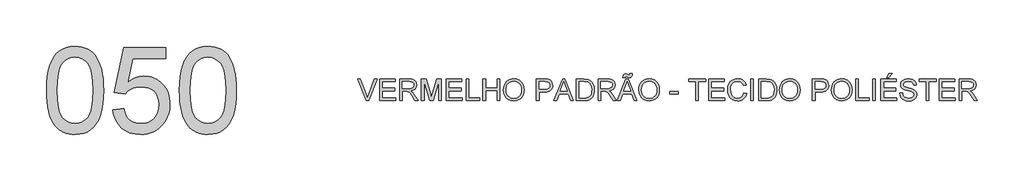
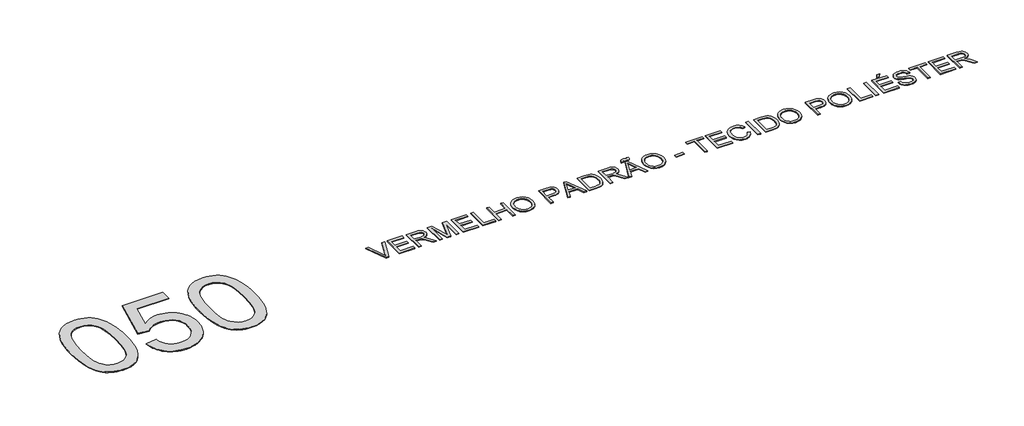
# One storey, part 20 of 67: 2 proxies.
"""IFC4 building model written with IfcOpenShell, lengths in millimetres."""

from ifc_helpers import new_model, si_unit, origin, origin_with_axes, place, context, project, spatial, polyline, outline, extrude, element, save

model = new_model("IFC4")

# Units and contexts
model_context = context("Model", 3, world=origin())
ifc_project = project(units=[si_unit("LENGTHUNIT", "METRE", prefix="MILLI")], contexts=[model_context])

# Site, building, storey
site = spatial("IfcSite", under=ifc_project)
building = spatial("IfcBuilding", under=site)
storey = spatial("IfcBuildingStorey", under=building, Name="Marelli - Linha COLAB - Planta Baixa", Elevation=0.0)

# Proxies
placement = place(None, origin())
element("IfcBuildingElementProxy", 1, Name="1200mm Arial", ObjectType="1200mm Arial", at=placement, inside=storey, context=model_context, shape_type="SweptSolid", body=[
    extrude(outline(polyline([(-25228.2202746, -29887.5405438), (-25225.4519626, -29786.1798571), (-25217.1470265, -29694.5864374), (-25203.3054665, -29612.7602846), (-25183.9272824, -29540.7013988), (-25159.0952477, -29477.8211688), (-25128.8921359, -29423.5309833), (-25093.317947, -29377.8308425), (-25052.3726809, -29340.7207462), (-25005.918382, -29312.0075565), (-24953.8170944, -29291.4981353), (-24896.0688182, -29279.1924825), (-24832.6735534, -29275.0905983), (-24785.032835, -29277.5186194), (-24739.8201378, -29284.8026829), (-24697.0354618, -29296.9427888), (-24656.6788069, -29313.938937), (-24619.7250605, -29335.5060189), (-24587.1491098, -29361.3589261), (-24558.9509549, -29391.4976586), (-24535.1305957, -29425.9222163), (-24514.4924157, -29464.4946435), (-24495.8407986, -29507.0769844), (-24464.4972526, -29604.2714076), (-24452.5226937, -29661.4310726), (-24443.9694373, -29727.6958169), (-24438.8374834, -29803.0656407), (-24437.1268322, -29887.5405438), (-24439.867553, -29988.2574371), (-24448.0897156, -30079.3910043), (-24461.7933199, -30160.9412456), (-24480.978366, -30232.9081609), (-24505.6172626, -30295.8159821), (-24535.6824187, -30350.188941), (-24571.1738342, -30396.0270376), (-24612.0915091, -30433.3302719), (-24658.6009903, -30462.2365997), (-24710.8678248, -30482.8839766), (-24768.8920125, -30495.2724028), (-24832.6735534, -30499.4018782), (-24875.3478648, -30497.6084535), (-24915.6677315, -30492.2281793), (-24953.6331534, -30483.2610557), (-24989.2441305, -30470.7070826), (-25022.5006629, -30454.5662601), (-25053.4027505, -30434.8385881), (-25081.9503933, -30411.5240666), (-25108.1435914, -30384.6226957), (-25136.286564, -30342.0265592), (-25160.6771403, -30293.8478134), (-25181.3153202, -30240.0864583), (-25198.2011038, -30180.742494), (-25211.334491, -30115.8159204), (-25220.7154819, -30045.3067375), (-25226.3440764, -29969.2149453), (-25228.2202746, -29887.5405438)]), holes=[polyline([(-25077.5358094, -29887.2462382), (-25073.1212254, -30018.2398197), (-25059.8774736, -30124.2726077), (-25049.9446597, -30167.9287043), (-25037.8045539, -30205.3446024), (-25023.4571561, -30236.5203023), (-25006.9024663, -30261.4558037), (-24969.5256556, -30299.6327578), (-24928.0285665, -30326.9020107), (-24882.4111991, -30343.2635624), (-24832.6735534, -30348.717413), (-24782.9359076, -30343.2451683), (-24737.3185402, -30326.8284343), (-24695.8214512, -30299.4672109), (-24658.4446405, -30261.1614981), (-24641.8899507, -30236.1662158), (-24627.5425529, -30204.9583263), (-24615.402447, -30167.5378296), (-24605.4696332, -30123.9047257), (-24592.2258813, -30018.0006964), (-24587.8112974, -29887.2462382), (-24592.0787285, -29759.7199446), (-24604.881022, -29655.5541577), (-24614.482742, -29612.2314542), (-24626.2181777, -29574.7488774), (-24640.0873289, -29543.1064273), (-24656.0901957, -29517.3041039), (-24692.841607, -29477.2601487), (-24734.8169427, -29448.6573236), (-24782.0162026, -29431.4956285), (-24834.4393869, -29425.7750635), (-24883.9195153, -29430.8150468), (-24928.7643305, -29445.9349968), (-24968.9738326, -29471.1349135), (-25004.5480215, -29506.4147968), (-25021.6545343, -29534.9624397), (-25036.4801787, -29568.954736), (-25049.0249547, -29608.3916859), (-25059.2888624, -29653.2732893), (-25072.9740726, -29759.3704567), (-25077.5358094, -29887.2462382)])]), origin_with_axes(), (0.0, 0.0, 1.0), 10.0),
    extrude(outline(polyline([(-24305.2779251, -30160.3618315), (-24154.5934599, -30141.5262733), (-24143.3362708, -30189.967135), (-24126.9287338, -30231.9884559), (-24105.3708489, -30267.590236), (-24078.6626161, -30296.7724753), (-24046.8592176, -30319.4983855), (-24010.0158358, -30335.7311786), (-23968.1324706, -30345.4708544), (-23921.2091221, -30348.717413), (-23863.8195309, -30344.2016615), (-23813.1989683, -30330.654407), (-23769.3474345, -30308.0756496), (-23732.2649294, -30276.4653891), (-23702.7791875, -30237.3871242), (-23681.7179433, -30192.4043532), (-23669.0811967, -30141.5170763), (-23664.8689479, -30084.7252933), (-23668.8144823, -30031.0513102), (-23680.6510855, -29983.3370154), (-23700.3787575, -29941.5824089), (-23727.9974983, -29905.7874908), (-23763.5992783, -29877.0743011), (-23807.2760682, -29856.5648798), (-23859.0278679, -29844.2592271), (-23918.8546774, -29840.1573429), (-23957.141996, -29841.7944177), (-23991.9528298, -29846.7056424), (-24023.2871787, -29854.8910168), (-24051.1450428, -29866.3505409), (-24098.4178792, -29896.4432881), (-24135.7579017, -29934.3351336), (-24286.4423669, -29915.4995755), (-24154.5934599, -29293.9261564), (-23570.6911571, -29293.9261564), (-23570.6911571, -29444.6106217), (-24032.7509431, -29444.6106217), (-24097.2038686, -29776.5873341), (-24044.0265262, -29738.4747594), (-23989.5615968, -29711.2514918), (-23933.8090805, -29694.9175312), (-23876.7689771, -29689.4728776), (-23839.3300863, -29691.1605363), (-23803.3857161, -29696.2235123), (-23768.9358665, -29704.6618055), (-23735.9805376, -29716.4754161), (-23704.5197292, -29731.664344), (-23674.5534414, -29750.2285891), (-23646.0816742, -29772.1681516), (-23619.1044277, -29797.4830314), (-23594.5138156, -29825.4512601), (-23573.2019517, -29855.3508693), (-23555.1688362, -29887.1818589), (-23540.4144689, -29920.944229), (-23528.9388499, -29956.6379796), (-23520.7419792, -29994.2631106), (-23515.8238568, -30033.8196222), (-23514.1844827, -30075.3075142), (-23520.0889887, -30153.3720736), (-23527.4696212, -30190.3626082), (-23537.8025067, -30225.9919794), (-23551.0876453, -30260.2601873), (-23567.3250369, -30293.1672317), (-23586.5146814, -30324.7131128), (-23608.656579, -30354.8978305), (-23638.6573557, -30388.7659667), (-23671.2700946, -30418.1183514), (-23706.4947956, -30442.9549846), (-23744.3314588, -30463.2758663), (-23784.7800842, -30479.0809965), (-23827.8406717, -30490.3703752), (-23873.5132214, -30497.1440025), (-23921.7977333, -30499.4018782), (-23999.55879, -30493.5985397), (-24035.6181234, -30486.3443667), (-24069.79666, -30476.1885243), (-24102.0943999, -30463.1310128), (-24132.5113431, -30447.171832), (-24161.0474896, -30428.3109819), (-24187.7028394, -30406.5484626), (-24212.0405327, -30382.3901119), (-24233.6237095, -30356.3417673), (-24252.4523698, -30328.4034291), (-24268.5265138, -30298.5750971), (-24281.8461413, -30266.8567713), (-24292.4112523, -30233.2484518), (-24305.2779251, -30160.3618315)])), origin_with_axes(), (0.0, 0.0, 1.0), 10.0),
    extrude(outline(polyline([(-23382.3355756, -29887.5405438), (-23379.5672636, -29786.1798571), (-23371.2623275, -29694.5864374), (-23357.4207675, -29612.7602846), (-23338.0425834, -29540.7013988), (-23313.2105487, -29477.8211688), (-23283.0074369, -29423.5309833), (-23247.433248, -29377.8308425), (-23206.4879819, -29340.7207462), (-23160.033683, -29312.0075565), (-23107.9323954, -29291.4981353), (-23050.1841192, -29279.1924825), (-22986.7888544, -29275.0905983), (-22939.148136, -29277.5186194), (-22893.9354388, -29284.8026829), (-22851.1507628, -29296.9427888), (-22810.7941079, -29313.938937), (-22773.8403615, -29335.5060189), (-22741.2644108, -29361.3589261), (-22713.0662559, -29391.4976586), (-22689.2458967, -29425.9222163), (-22668.6077167, -29464.4946435), (-22649.9560996, -29507.0769844), (-22618.6125536, -29604.2714076), (-22606.6379947, -29661.4310726), (-22598.0847383, -29727.6958169), (-22592.9527844, -29803.0656407), (-22591.2421332, -29887.5405438), (-22593.982854, -29988.2574371), (-22602.2050166, -30079.3910043), (-22615.9086209, -30160.9412456), (-22635.093667, -30232.9081609), (-22659.7325636, -30295.8159821), (-22689.7977197, -30350.188941), (-22725.2891352, -30396.0270376), (-22766.2068101, -30433.3302719), (-22812.7162913, -30462.2365997), (-22864.9831258, -30482.8839766), (-22923.0073135, -30495.2724028), (-22986.7888544, -30499.4018782), (-23029.4631658, -30497.6084535), (-23069.7830325, -30492.2281793), (-23107.7484544, -30483.2610557), (-23143.3594315, -30470.7070826), (-23176.6159639, -30454.5662601), (-23207.5180515, -30434.8385881), (-23236.0656943, -30411.5240666), (-23262.2588924, -30384.6226957), (-23290.401865, -30342.0265592), (-23314.7924413, -30293.8478134), (-23335.4306212, -30240.0864583), (-23352.3164048, -30180.742494), (-23365.449792, -30115.8159204), (-23374.8307829, -30045.3067375), (-23380.4593774, -29969.2149453), (-23382.3355756, -29887.5405438)]), holes=[polyline([(-23231.6511104, -29887.2462382), (-23227.2365264, -30018.2398197), (-23213.9927746, -30124.2726077), (-23204.0599607, -30167.9287043), (-23191.9198549, -30205.3446024), (-23177.5724571, -30236.5203023), (-23161.0177673, -30261.4558037), (-23123.6409566, -30299.6327578), (-23082.1438675, -30326.9020107), (-23036.5265001, -30343.2635624), (-22986.7888544, -30348.717413), (-22937.0512086, -30343.2451683), (-22891.4338412, -30326.8284343), (-22849.9367522, -30299.4672109), (-22812.5599415, -30261.1614981), (-22796.0052517, -30236.1662158), (-22781.6578539, -30204.9583263), (-22769.517748, -30167.5378296), (-22759.5849342, -30123.9047257), (-22746.3411823, -30018.0006964), (-22741.9265984, -29887.2462382), (-22746.1940295, -29759.7199446), (-22758.996323, -29655.5541577), (-22768.598043, -29612.2314542), (-22780.3334787, -29574.7488774), (-22794.2026299, -29543.1064273), (-22810.2054967, -29517.3041039), (-22846.956908, -29477.2601487), (-22888.9322437, -29448.6573236), (-22936.1315036, -29431.4956285), (-22988.554688, -29425.7750635), (-23038.0348163, -29430.8150468), (-23082.8796315, -29445.9349968), (-23123.0891336, -29471.1349135), (-23158.6633225, -29506.4147968), (-23175.7698353, -29534.9624397), (-23190.5954797, -29568.954736), (-23203.1402557, -29608.3916859), (-23213.4041634, -29653.2732893), (-23227.0893736, -29759.3704567), (-23231.6511104, -29887.2462382)])]), origin_with_axes(), (0.0, 0.0, 1.0), 10.0),
])
element("IfcBuildingElementProxy", 2, Name="300mm Arial", ObjectType="300mm Arial", at=placement, inside=storey, context=model_context, shape_type="SweptSolid", body=[
    extrude(outline(polyline([(-20789.4399329, -30030.5663201), (-20909.3694633, -29729.1973896), (-20869.0495966, -29729.1973896), (-20788.7777453, -29946.3213432), (-20772.5173611, -29995.2496485), (-20756.4777061, -29946.3213432), (-20675.9851255, -29729.1973896), (-20635.6652589, -29729.1973896), (-20750.5180178, -30030.5663201), (-20789.4399329, -30030.5663201)])), origin_with_axes(), (0.0, 0.0, 1.0), 10.0),
    extrude(outline(polyline([(-20600.6428929, -30030.5663201), (-20600.6428929, -29729.1973896), (-20384.0339742, -29729.1973896), (-20384.0339742, -29766.8685059), (-20562.9717766, -29766.8685059), (-20562.9717766, -29856.3374072), (-20393.4517532, -29856.3374072), (-20393.4517532, -29894.0085235), (-20562.9717766, -29894.0085235), (-20562.9717766, -29992.8952038), (-20379.3250846, -29992.8952038), (-20379.3250846, -30030.5663201), (-20600.6428929, -30030.5663201)])), origin_with_axes(), (0.0, 0.0, 1.0), 10.0),
    extrude(outline(polyline([(-20322.8184102, -30030.5663201), (-20322.8184102, -29729.1973896), (-20192.9560659, -29729.1973896), (-20158.0532616, -29731.2299376), (-20132.6602069, -29737.3275817), (-20114.1005602, -29748.5847708), (-20099.6979801, -29766.0959537), (-20090.454945, -29787.8101885), (-20087.3739333, -29811.6765329), (-20092.4782959, -29841.3646099), (-20107.791384, -29865.9759154), (-20119.3911631, -29876.0052983), (-20133.7730499, -29884.0205273), (-20170.8831462, -29894.0085235), (-20149.472414, -29910.1217548), (-20118.9382084, -29948.8965171), (-20068.6855279, -30030.5663201), (-20112.4634853, -30030.5663201), (-20151.679706, -29968.0999573), (-20180.0066196, -29926.750021), (-20199.9090356, -29907.2154871), (-20217.8248887, -29900.0417882), (-20239.6770793, -29898.717413), (-20285.1472939, -29898.717413), (-20285.1472939, -30030.5663201), (-20322.8184102, -30030.5663201)]), holes=[polyline([(-20285.1472939, -29861.0462967), (-20200.8287406, -29861.0462967), (-20176.6129082, -29859.7127245), (-20157.8233353, -29855.7120078), (-20143.6782726, -29848.7774322), (-20133.3959709, -29838.6422832), (-20127.1327799, -29826.3826157), (-20125.0450496, -29813.0744845), (-20129.0273722, -29794.6987789), (-20140.97434, -29779.8915286), (-20161.5297464, -29770.1242616), (-20191.3373851, -29766.8685059), (-20285.1472939, -29766.8685059), (-20285.1472939, -29861.0462967)])]), origin_with_axes(), (0.0, 0.0, 1.0), 10.0),
    extrude(outline(polyline([(-20021.4494797, -30030.5663201), (-20021.4494797, -29729.1973896), (-19956.6286722, -29729.1973896), (-19894.9716498, -29941.6124536), (-19882.5372383, -29985.9790223), (-19869.0727573, -29937.9336337), (-19808.4458045, -29729.1973896), (-19743.624997, -29729.1973896), (-19743.624997, -30030.5663201), (-19781.2961133, -30030.5663201), (-19781.2961133, -29766.8685059), (-19857.0062279, -30030.5663201), (-19908.0682488, -30030.5663201), (-19983.7783634, -29766.8685059), (-19983.7783634, -30030.5663201), (-20021.4494797, -30030.5663201)])), origin_with_axes(), (0.0, 0.0, 1.0), 10.0),
    extrude(outline(polyline([(-19677.7005434, -30030.5663201), (-19677.7005434, -29729.1973896), (-19461.0916247, -29729.1973896), (-19461.0916247, -29766.8685059), (-19640.0294271, -29766.8685059), (-19640.0294271, -29856.3374072), (-19470.5094037, -29856.3374072), (-19470.5094037, -29894.0085235), (-19640.0294271, -29894.0085235), (-19640.0294271, -29992.8952038), (-19456.3827351, -29992.8952038), (-19456.3827351, -30030.5663201), (-19677.7005434, -30030.5663201)])), origin_with_axes(), (0.0, 0.0, 1.0), 10.0),
    extrude(outline(polyline([(-19399.8760607, -30030.5663201), (-19399.8760607, -29729.1973896), (-19362.2049444, -29729.1973896), (-19362.2049444, -29992.8952038), (-19211.5204791, -29992.8952038), (-19211.5204791, -30030.5663201), (-19399.8760607, -30030.5663201)])), origin_with_axes(), (0.0, 0.0, 1.0), 10.0),
    extrude(outline(polyline([(-19169.1404733, -30030.5663201), (-19169.1404733, -29729.1973896), (-19131.469357, -29729.1973896), (-19131.469357, -29851.6285176), (-18971.3671127, -29851.6285176), (-18971.3671127, -29729.1973896), (-18933.6959964, -29729.1973896), (-18933.6959964, -30030.5663201), (-18971.3671127, -30030.5663201), (-18971.3671127, -29889.2996339), (-19131.469357, -29889.2996339), (-19131.469357, -30030.5663201), (-19169.1404733, -30030.5663201)])), origin_with_axes(), (0.0, 0.0, 1.0), 10.0),
    extrude(outline(polyline([(-18881.8982115, -29883.8549804), (-18879.3874168, -29848.5061192), (-18871.855033, -29817.213157), (-18859.3010599, -29789.9760937), (-18841.7254976, -29766.7949295), (-18820.1814082, -29748.2858666), (-18795.7218541, -29735.0651074), (-18768.3468351, -29727.1326519), (-18738.0563513, -29724.4885001), (-18698.527431, -29729.454907), (-18663.0820007, -29744.3541278), (-18633.6514411, -29768.1376988), (-18612.1671326, -29799.7571563), (-18599.0337454, -29837.68579), (-18594.6559496, -29880.3968896), (-18599.2636716, -29923.6782064), (-18613.0868376, -29962.140269), (-18635.3620924, -29993.8149087), (-18665.3260809, -30016.733957), (-18700.4680085, -30030.6398965), (-18738.2770805, -30035.2752096), (-18778.4130062, -30030.1524528), (-18814.0607716, -30014.7841825), (-18843.4177548, -29990.5591531), (-18864.6813341, -29958.8661192), (-18877.5939921, -29922.3998164), (-18881.8982115, -29883.8549804)]), holes=[polyline([(-18844.2270952, -29884.2228624), (-18842.3439992, -29909.1974513), (-18836.6947113, -29931.3669401), (-18827.2792315, -29950.7313286), (-18814.0975597, -29967.2906169), (-18798.0739996, -29980.5527628), (-18780.1328545, -29990.0257242), (-18760.2741246, -29995.709501), (-18738.4978097, -29997.6040933), (-18716.3490144, -29995.6911069), (-18696.2557596, -29989.9521478), (-18678.2180456, -29980.3872159), (-18662.2358721, -29966.9963113), (-18649.1507694, -29950.0875351), (-18639.8042675, -29929.9689885), (-18634.1963663, -29906.6406715), (-18632.3270659, -29880.102584), (-18635.5276393, -29846.7540812), (-18645.1293594, -29817.9305269), (-18660.8839058, -29794.358488), (-18682.5429583, -29776.7645316), (-18708.671777, -29765.8108452), (-18737.8356221, -29762.1596164), (-18758.8554796, -29763.9185522), (-18778.3578239, -29769.1953595), (-18796.342655, -29777.9900385), (-18812.8099728, -29790.302589), (-18826.5549638, -29806.7262208), (-18836.3728146, -29827.8541437), (-18842.263525, -29853.6863575), (-18844.2270952, -29884.2228624)])]), origin_with_axes(), (0.0, 0.0, 1.0), 10.0),
    extrude(outline(polyline([(-18425.1359262, -30030.5663201), (-18425.1359262, -29729.1973896), (-18313.4469525, -29729.1973896), (-18268.4181963, -29732.0668692), (-18248.3410364, -29737.4287493), (-18231.8139378, -29746.1567496), (-18218.5058066, -29758.6463433), (-18208.0855491, -29775.2930036), (-18201.3533086, -29794.9287051), (-18199.1092284, -29816.3854225), (-18200.6244424, -29834.8852883), (-18205.1700843, -29851.9044291), (-18212.7461541, -29867.4428449), (-18223.3526519, -29881.5005356), (-18237.9138811, -29893.1531978), (-18257.3541453, -29901.476528), (-18281.6734444, -29906.470526), (-18310.8717785, -29908.1351921), (-18387.4648099, -29908.1351921), (-18387.4648099, -30030.5663201), (-18425.1359262, -30030.5663201)]), holes=[polyline([(-18387.4648099, -29870.4640758), (-18308.6644866, -29870.4640758), (-18275.2608014, -29867.005985), (-18253.1878817, -29856.6317127), (-18240.882229, -29839.9850525), (-18236.7803447, -29817.7097977), (-18239.1991688, -29800.7872259), (-18246.4556412, -29786.5134045), (-18257.6484509, -29775.7712502), (-18271.8762871, -29769.4436799), (-18309.5474034, -29766.8685059), (-18387.4648099, -29766.8685059), (-18387.4648099, -29870.4640758)])]), origin_with_axes(), (0.0, 0.0, 1.0), 10.0),
    extrude(outline(polyline([(-18182.4073858, -30030.5663201), (-18062.1099734, -29729.1973896), (-18030.0306634, -29729.1973896), (-17909.733251, -30030.5663201), (-17949.5380829, -30030.5663201), (-17984.045414, -29936.3885293), (-18108.1687992, -29936.3885293), (-18142.602554, -30030.5663201), (-18182.4073858, -30030.5663201)]), holes=[polyline([(-18094.3364362, -29898.717413), (-17997.8042007, -29898.717413), (-18024.9538919, -29824.6259792), (-18046.0703184, -29766.8685059), (-18064.8323002, -29818.1512561), (-18094.3364362, -29898.717413)])]), origin_with_axes(), (0.0, 0.0, 1.0), 10.0),
    extrude(outline(polyline([(-17869.4869607, -30030.5663201), (-17869.4869607, -29729.1973896), (-17765.5235089, -29729.1973896), (-17711.7391612, -29733.5383972), (-17687.7164669, -29741.9077126), (-17667.446169, -29755.0962821), (-17646.605654, -29778.0521186), (-17631.7616155, -29806.5997614), (-17622.8772653, -29840.1873876), (-17619.9158152, -29878.2631741), (-17621.9207721, -29910.6091985), (-17627.9356427, -29939.0740679), (-17637.0959044, -29963.3082943), (-17648.5370344, -29982.9623899), (-17661.7072099, -29998.477813), (-17676.0546077, -30010.2960221), (-17692.526524, -30019.0608107), (-17712.070255, -30025.4159721), (-17760.5203138, -30030.5663201), (-17869.4869607, -30030.5663201)]), holes=[polyline([(-17831.8158444, -29992.8952038), (-17765.1556269, -29992.8952038), (-17737.5828714, -29991.5340404), (-17716.6687799, -29987.4505502), (-17700.8866423, -29980.8838566), (-17688.7097483, -29972.0730828), (-17675.6223463, -29955.7667134), (-17665.7907, -29934.6594839), (-17659.6378736, -29908.6594239), (-17657.5869315, -29877.6745629), (-17661.6060423, -29836.6189322), (-17673.6633747, -29806.3054558), (-17691.4780603, -29785.4833349), (-17712.7692308, -29772.9017706), (-17734.4374803, -29768.3768221), (-17766.1856965, -29766.8685059), (-17831.8158444, -29766.8685059), (-17831.8158444, -29992.8952038)])]), origin_with_axes(), (0.0, 0.0, 1.0), 10.0),
    extrude(outline(polyline([(-17568.1180303, -30030.5663201), (-17568.1180303, -29729.1973896), (-17438.255686, -29729.1973896), (-17403.3528817, -29731.2299376), (-17377.959827, -29737.3275817), (-17359.4001803, -29748.5847708), (-17344.9976002, -29766.0959537), (-17335.7545651, -29787.8101885), (-17332.6735534, -29811.6765329), (-17337.7779161, -29841.3646099), (-17353.0910041, -29865.9759154), (-17364.6907833, -29876.0052983), (-17379.07267, -29884.0205273), (-17416.1827663, -29894.0085235), (-17394.7720342, -29910.1217548), (-17364.2378286, -29948.8965171), (-17313.985148, -30030.5663201), (-17357.7631054, -30030.5663201), (-17396.9793261, -29968.0999573), (-17425.3062398, -29926.750021), (-17445.2086557, -29907.2154871), (-17463.1245089, -29900.0417882), (-17484.9766994, -29898.717413), (-17530.446914, -29898.717413), (-17530.446914, -30030.5663201), (-17568.1180303, -30030.5663201)]), holes=[polyline([(-17530.446914, -29861.0462967), (-17446.1283607, -29861.0462967), (-17421.9125284, -29859.7127245), (-17403.1229554, -29855.7120078), (-17388.9778927, -29848.7774322), (-17378.695591, -29838.6422832), (-17372.4324, -29826.3826157), (-17370.3446697, -29813.0744845), (-17374.3269923, -29794.6987789), (-17386.2739601, -29779.8915286), (-17406.8293666, -29770.1242616), (-17436.6370052, -29766.8685059), (-17530.446914, -29766.8685059), (-17530.446914, -29861.0462967)])]), origin_with_axes(), (0.0, 0.0, 1.0), 10.0),
    extrude(outline(polyline([(-17224.369094, -29710.3618315), (-17221.5180085, -29687.2036599), (-17212.6704465, -29669.2326244), (-17199.3347242, -29657.6995239), (-17182.7248521, -29653.855157), (-17168.8189127, -29656.8901835), (-17152.5585285, -29665.9952628), (-17137.3282139, -29672.6907152), (-17129.3451746, -29668.9015306), (-17125.4824137, -29653.855157), (-17092.5201869, -29653.855157), (-17095.8035337, -29678.5768271), (-17104.4763518, -29696.2351629), (-17117.3798127, -29706.8301643), (-17133.3550884, -29710.3618315), (-17147.3529983, -29707.4923519), (-17163.15353, -29698.8839132), (-17179.0460322, -29691.5262733), (-17188.0223529, -29696.3087393), (-17191.4068672, -29710.3618315), (-17224.369094, -29710.3618315)])), origin_with_axes(), (0.0, 0.0, 1.0), 10.0),
    extrude(outline(polyline([(-17301.8450422, -30030.5663201), (-17181.5476298, -29729.1973896), (-17149.4683198, -29729.1973896), (-17029.1709074, -30030.5663201), (-17068.9757392, -30030.5663201), (-17103.4830704, -29936.3885293), (-17227.6064555, -29936.3885293), (-17262.0402103, -30030.5663201), (-17301.8450422, -30030.5663201)]), holes=[polyline([(-17213.7740925, -29898.717413), (-17117.241857, -29898.717413), (-17144.3915482, -29824.6259792), (-17165.5079748, -29766.8685059), (-17184.2699565, -29818.1512561), (-17213.7740925, -29898.717413)])]), origin_with_axes(), (0.0, 0.0, 1.0), 10.0),
    extrude(outline(polyline([(-17003.0512857, -29883.8549804), (-17000.5404911, -29848.5061192), (-16993.0081072, -29817.213157), (-16980.4541341, -29789.9760937), (-16962.8785718, -29766.7949295), (-16941.3344825, -29748.2858666), (-16916.8749283, -29735.0651074), (-16889.4999094, -29727.1326519), (-16859.2094256, -29724.4885001), (-16819.6805052, -29729.454907), (-16784.235075, -29744.3541278), (-16754.8045153, -29768.1376988), (-16733.3202068, -29799.7571563), (-16720.1868196, -29837.68579), (-16715.8090239, -29880.3968896), (-16720.4167458, -29923.6782064), (-16734.2399118, -29962.140269), (-16756.5151666, -29993.8149087), (-16786.4791551, -30016.733957), (-16821.6210827, -30030.6398965), (-16859.4301548, -30035.2752096), (-16899.5660805, -30030.1524528), (-16935.2138458, -30014.7841825), (-16964.570829, -29990.5591531), (-16985.8344083, -29958.8661192), (-16998.7470664, -29922.3998164), (-17003.0512857, -29883.8549804)]), holes=[polyline([(-16965.3801694, -29884.2228624), (-16963.4970734, -29909.1974513), (-16957.8477855, -29931.3669401), (-16948.4323057, -29950.7313286), (-16935.250634, -29967.2906169), (-16919.2270738, -29980.5527628), (-16901.2859288, -29990.0257242), (-16881.4271988, -29995.709501), (-16859.650884, -29997.6040933), (-16837.5020886, -29995.6911069), (-16817.4088339, -29989.9521478), (-16799.3711198, -29980.3872159), (-16783.3889464, -29966.9963113), (-16770.3038437, -29950.0875351), (-16760.9573417, -29929.9689885), (-16755.3494406, -29906.6406715), (-16753.4801402, -29880.102584), (-16756.6807135, -29846.7540812), (-16766.2824336, -29817.9305269), (-16782.03698, -29794.358488), (-16803.6960325, -29776.7645316), (-16829.8248512, -29765.8108452), (-16858.9886964, -29762.1596164), (-16880.0085539, -29763.9185522), (-16899.5108982, -29769.1953595), (-16917.4957292, -29777.9900385), (-16933.963047, -29790.302589), (-16947.708038, -29806.7262208), (-16957.5258888, -29827.8541437), (-16963.4165992, -29853.6863575), (-16965.3801694, -29884.2228624)])]), origin_with_axes(), (0.0, 0.0, 1.0), 10.0),
    extrude(outline(polyline([(-16569.8334482, -29941.0974188), (-16569.8334482, -29903.4263025), (-16452.1112097, -29903.4263025), (-16452.1112097, -29941.0974188), (-16569.8334482, -29941.0974188)])), origin_with_axes(), (0.0, 0.0, 1.0), 10.0),
    extrude(outline(polyline([(-16211.9578433, -30030.5663201), (-16211.9578433, -29766.8685059), (-16310.8445236, -29766.8685059), (-16310.8445236, -29729.1973896), (-16075.4000467, -29729.1973896), (-16075.4000467, -29766.8685059), (-16174.286727, -29766.8685059), (-16174.286727, -30030.5663201), (-16211.9578433, -30030.5663201)])), origin_with_axes(), (0.0, 0.0, 1.0), 10.0),
    extrude(outline(polyline([(-16033.0200408, -30030.5663201), (-16033.0200408, -29729.1973896), (-15816.4111221, -29729.1973896), (-15816.4111221, -29766.8685059), (-15995.3489245, -29766.8685059), (-15995.3489245, -29856.3374072), (-15825.8289011, -29856.3374072), (-15825.8289011, -29894.0085235), (-15995.3489245, -29894.0085235), (-15995.3489245, -29992.8952038), (-15811.7022325, -29992.8952038), (-15811.7022325, -30030.5663201), (-16033.0200408, -30030.5663201)])), origin_with_axes(), (0.0, 0.0, 1.0), 10.0),
    extrude(outline(polyline([(-15543.2955288, -29923.4390831), (-15505.6244125, -29933.1511677), (-15513.0786215, -29956.5783531), (-15523.0068368, -29977.0486868), (-15535.4090586, -29994.5621691), (-15550.2852867, -30009.1187997), (-15567.299829, -30020.5622291), (-15586.1169931, -30028.7361071), (-15606.7367789, -30033.640434), (-15629.1591865, -30035.2752096), (-15672.8543705, -30030.3271968), (-15707.5548397, -30015.4831583), (-15734.1527079, -29991.2581289), (-15753.5400891, -29958.1671434), (-15765.3766923, -29919.2636224), (-15769.3222267, -29877.6009865), (-15764.8616575, -29833.6574821), (-15751.4799499, -29795.7104543), (-15729.8760797, -29764.9647166), (-15700.7490228, -29742.6250824), (-15666.2049034, -29729.0226457), (-15628.3498461, -29724.4885001), (-15587.0458951, -29730.3562179), (-15569.0771589, -29737.6908652), (-15552.8972489, -29747.9593714), (-15538.7728796, -29760.8904235), (-15526.9707653, -29776.2127086), (-15510.3333021, -29814.0309777), (-15548.0044184, -29823.0072984), (-15561.0642292, -29795.5357104), (-15578.906506, -29776.6909552), (-15601.7519779, -29765.7924511), (-15629.8213741, -29762.1596164), (-15662.1765956, -29766.1879242), (-15688.7560697, -29778.2728478), (-15708.9252001, -29797.1451941), (-15722.0493903, -29821.5357704), (-15729.2506803, -29849.1085259), (-15731.6511104, -29877.5274101), (-15728.809222, -29912.3290468), (-15720.2835567, -29942.421794), (-15705.7522179, -29966.6560205), (-15684.8933088, -29983.8820949), (-15659.8865302, -29994.1735937), (-15632.9115829, -29997.6040933), (-15601.4668693, -29992.931992), (-15575.2644742, -29978.9156879), (-15555.4816199, -29955.702334), (-15543.2955288, -29923.4390831)])), origin_with_axes(), (0.0, 0.0, 1.0), 10.0),
    extrude(outline(polyline([(-15449.1177381, -30030.5663201), (-15449.1177381, -29729.1973896), (-15411.4466218, -29729.1973896), (-15411.4466218, -30030.5663201), (-15449.1177381, -30030.5663201)])), origin_with_axes(), (0.0, 0.0, 1.0), 10.0),
    extrude(outline(polyline([(-15336.1043891, -30030.5663201), (-15336.1043891, -29729.1973896), (-15232.1409373, -29729.1973896), (-15178.3565896, -29733.5383972), (-15154.3338953, -29741.9077126), (-15134.0635974, -29755.0962821), (-15113.2230824, -29778.0521186), (-15098.3790439, -29806.5997614), (-15089.4946937, -29840.1873876), (-15086.5332436, -29878.2631741), (-15088.5382005, -29910.6091985), (-15094.5530711, -29939.0740679), (-15103.7133328, -29963.3082943), (-15115.1544628, -29982.9623899), (-15128.3246383, -29998.477813), (-15142.6720361, -30010.2960221), (-15159.1439524, -30019.0608107), (-15178.6876834, -30025.4159721), (-15227.1377422, -30030.5663201), (-15336.1043891, -30030.5663201)]), holes=[polyline([(-15298.4332728, -29992.8952038), (-15231.7730553, -29992.8952038), (-15204.2002998, -29991.5340404), (-15183.2862084, -29987.4505502), (-15167.5040708, -29980.8838566), (-15155.3271767, -29972.0730828), (-15142.2397747, -29955.7667134), (-15132.4081284, -29934.6594839), (-15126.2553021, -29908.6594239), (-15124.2043599, -29877.6745629), (-15128.2234707, -29836.6189322), (-15140.2808031, -29806.3054558), (-15158.0954887, -29785.4833349), (-15179.3866592, -29772.9017706), (-15201.0549087, -29768.3768221), (-15232.8031249, -29766.8685059), (-15298.4332728, -29766.8685059), (-15298.4332728, -29992.8952038)])]), origin_with_axes(), (0.0, 0.0, 1.0), 10.0),
    extrude(outline(polyline([(-15048.8621273, -29883.8549804), (-15046.3513327, -29848.5061192), (-15038.8189488, -29817.213157), (-15026.2649758, -29789.9760937), (-15008.6894134, -29766.7949295), (-14987.1453241, -29748.2858666), (-14962.6857699, -29735.0651074), (-14935.310751, -29727.1326519), (-14905.0202672, -29724.4885001), (-14865.4913468, -29729.454907), (-14830.0459166, -29744.3541278), (-14800.615357, -29768.1376988), (-14779.1310485, -29799.7571563), (-14765.9976612, -29837.68579), (-14761.6198655, -29880.3968896), (-14766.2275875, -29923.6782064), (-14780.0507534, -29962.140269), (-14802.3260082, -29993.8149087), (-14832.2899968, -30016.733957), (-14867.4319243, -30030.6398965), (-14905.2409964, -30035.2752096), (-14945.3769221, -30030.1524528), (-14981.0246874, -30014.7841825), (-15010.3816706, -29990.5591531), (-15031.6452499, -29958.8661192), (-15044.557908, -29922.3998164), (-15048.8621273, -29883.8549804)]), holes=[polyline([(-15011.191011, -29884.2228624), (-15009.307915, -29909.1974513), (-15003.6586272, -29931.3669401), (-14994.2431473, -29950.7313286), (-14981.0614756, -29967.2906169), (-14965.0379155, -29980.5527628), (-14947.0967704, -29990.0257242), (-14927.2380404, -29995.709501), (-14905.4617256, -29997.6040933), (-14883.3129302, -29995.6911069), (-14863.2196755, -29989.9521478), (-14845.1819614, -29980.3872159), (-14829.199788, -29966.9963113), (-14816.1146853, -29950.0875351), (-14806.7681833, -29929.9689885), (-14801.1602822, -29906.6406715), (-14799.2909818, -29880.102584), (-14802.4915551, -29846.7540812), (-14812.0932752, -29817.9305269), (-14827.8478217, -29794.358488), (-14849.5068741, -29776.7645316), (-14875.6356928, -29765.8108452), (-14904.799538, -29762.1596164), (-14925.8193955, -29763.9185522), (-14945.3217398, -29769.1953595), (-14963.3065708, -29777.9900385), (-14979.7738886, -29790.302589), (-14993.5188797, -29806.7262208), (-15003.3367304, -29827.8541437), (-15009.2274409, -29853.6863575), (-15011.191011, -29884.2228624)])]), origin_with_axes(), (0.0, 0.0, 1.0), 10.0),
    extrude(outline(polyline([(-14592.0998421, -30030.5663201), (-14592.0998421, -29729.1973896), (-14480.4108684, -29729.1973896), (-14435.3821122, -29732.0668692), (-14415.3049523, -29737.4287493), (-14398.7778536, -29746.1567496), (-14385.4697225, -29758.6463433), (-14375.0494649, -29775.2930036), (-14368.3172244, -29794.9287051), (-14366.0731443, -29816.3854225), (-14367.5883582, -29834.8852883), (-14372.1340001, -29851.9044291), (-14379.71007, -29867.4428449), (-14390.3165677, -29881.5005356), (-14404.877797, -29893.1531978), (-14424.3180612, -29901.476528), (-14448.6373603, -29906.470526), (-14477.8356944, -29908.1351921), (-14554.4287258, -29908.1351921), (-14554.4287258, -30030.5663201), (-14592.0998421, -30030.5663201)]), holes=[polyline([(-14554.4287258, -29870.4640758), (-14475.6284024, -29870.4640758), (-14442.2247173, -29867.005985), (-14420.1517976, -29856.6317127), (-14407.8461448, -29839.9850525), (-14403.7442606, -29817.7097977), (-14406.1630847, -29800.7872259), (-14413.419557, -29786.5134045), (-14424.6123667, -29775.7712502), (-14438.8402029, -29769.4436799), (-14476.5113192, -29766.8685059), (-14554.4287258, -29766.8685059), (-14554.4287258, -29870.4640758)])]), origin_with_axes(), (0.0, 0.0, 1.0), 10.0),
    extrude(outline(polyline([(-14328.402028, -29883.8549804), (-14325.8912333, -29848.5061192), (-14318.3588495, -29817.213157), (-14305.8048764, -29789.9760937), (-14288.2293141, -29766.7949295), (-14266.6852247, -29748.2858666), (-14242.2256706, -29735.0651074), (-14214.8506516, -29727.1326519), (-14184.5601678, -29724.4885001), (-14145.0312475, -29729.454907), (-14109.5858172, -29744.3541278), (-14080.1552576, -29768.1376988), (-14058.6709491, -29799.7571563), (-14045.5375619, -29837.68579), (-14041.1597661, -29880.3968896), (-14045.7674881, -29923.6782064), (-14059.5906541, -29962.140269), (-14081.8659089, -29993.8149087), (-14111.8298974, -30016.733957), (-14146.971825, -30030.6398965), (-14184.780897, -30035.2752096), (-14224.9168227, -30030.1524528), (-14260.5645881, -30014.7841825), (-14289.9215713, -29990.5591531), (-14311.1851506, -29958.8661192), (-14324.0978086, -29922.3998164), (-14328.402028, -29883.8549804)]), holes=[polyline([(-14290.7309117, -29884.2228624), (-14288.8478157, -29909.1974513), (-14283.1985278, -29931.3669401), (-14273.783048, -29950.7313286), (-14260.6013762, -29967.2906169), (-14244.5778161, -29980.5527628), (-14226.636671, -29990.0257242), (-14206.7779411, -29995.709501), (-14185.0016262, -29997.6040933), (-14162.8528309, -29995.6911069), (-14142.7595761, -29989.9521478), (-14124.7218621, -29980.3872159), (-14108.7396886, -29966.9963113), (-14095.6545859, -29950.0875351), (-14086.308084, -29929.9689885), (-14080.7001828, -29906.6406715), (-14078.8308824, -29880.102584), (-14082.0314558, -29846.7540812), (-14091.6331759, -29817.9305269), (-14107.3877223, -29794.358488), (-14129.0467748, -29776.7645316), (-14155.1755935, -29765.8108452), (-14184.3394386, -29762.1596164), (-14205.3592961, -29763.9185522), (-14224.8616404, -29769.1953595), (-14242.8464715, -29777.9900385), (-14259.3137893, -29790.302589), (-14273.0587803, -29806.7262208), (-14282.8766311, -29827.8541437), (-14288.7673415, -29853.6863575), (-14290.7309117, -29884.2228624)])]), origin_with_axes(), (0.0, 0.0, 1.0), 10.0),
    extrude(outline(polyline([(-13989.3619812, -30030.5663201), (-13989.3619812, -29729.1973896), (-13951.6908649, -29729.1973896), (-13951.6908649, -29992.8952038), (-13801.0063997, -29992.8952038), (-13801.0063997, -30030.5663201), (-13989.3619812, -30030.5663201)])), origin_with_axes(), (0.0, 0.0, 1.0), 10.0),
    extrude(outline(polyline([(-13753.9175043, -30030.5663201), (-13753.9175043, -29729.1973896), (-13716.246388, -29729.1973896), (-13716.246388, -30030.5663201), (-13753.9175043, -30030.5663201)])), origin_with_axes(), (0.0, 0.0, 1.0), 10.0),
    extrude(outline(polyline([(-13640.9041554, -30030.5663201), (-13640.9041554, -29729.1973896), (-13424.2952366, -29729.1973896), (-13424.2952366, -29766.8685059), (-13603.2330391, -29766.8685059), (-13603.2330391, -29856.3374072), (-13433.7130157, -29856.3374072), (-13433.7130157, -29894.0085235), (-13603.2330391, -29894.0085235), (-13603.2330391, -29992.8952038), (-13419.5863471, -29992.8952038), (-13419.5863471, -30030.5663201), (-13640.9041554, -30030.5663201)])), origin_with_axes(), (0.0, 0.0, 1.0), 10.0),
    extrude(outline(polyline([(-13556.1441437, -29710.3618315), (-13527.8908065, -29653.855157), (-13480.8019111, -29653.855157), (-13527.8908065, -29710.3618315), (-13556.1441437, -29710.3618315)])), origin_with_axes(), (0.0, 0.0, 1.0), 10.0),
    extrude(outline(polyline([(-13377.2063412, -29926.9707502), (-13339.5352249, -29926.9707502), (-13335.2126115, -29947.8756446), (-13327.3951191, -29964.6786547), (-13315.1998309, -29978.0143771), (-13297.7438303, -29988.517408), (-13276.4066746, -29995.332422), (-13252.5679213, -29997.6040933), (-13231.5802534, -29995.884245), (-13213.2045478, -29990.7247), (-13198.314524, -29982.5577197), (-13187.7839019, -29971.8155654), (-13181.5207109, -29959.4823215), (-13179.4329806, -29946.5420724), (-13180.9964791, -29933.932917), (-13185.6869745, -29923.0344129), (-13195.2151182, -29913.7361954), (-13211.2915614, -29905.9279001), (-13266.1427669, -29891.5437141), (-13302.1492172, -29882.0247675), (-13325.1878271, -29872.9656733), (-13343.9406118, -29860.2921386), (-13357.2303489, -29844.9330653), (-13365.1490088, -29827.2195472), (-13367.7885622, -29807.4826782), (-13364.5236094, -29785.4189555), (-13354.7287513, -29764.845155), (-13338.6615052, -29747.4075484), (-13316.5793884, -29734.7524077), (-13290.0734907, -29727.054477), (-13260.7349016, -29724.4885001), (-13228.9498972, -29727.1740386), (-13201.1380183, -29735.2306543), (-13178.2925464, -29748.4928003), (-13161.4067629, -29766.7949295), (-13150.7197909, -29788.9966079), (-13146.4707539, -29813.9574013), (-13184.1418702, -29813.9574013), (-13191.0580517, -29791.4798114), (-13205.4790259, -29775.2562154), (-13228.0117981, -29765.4337661), (-13259.2633736, -29762.1596164), (-13291.2507131, -29765.3969779), (-13313.1948741, -29775.1090626), (-13325.8868029, -29789.4012781), (-13330.1174458, -29806.3790322), (-13327.1192076, -29820.8551887), (-13318.1244928, -29832.4986539), (-13296.8609135, -29842.9097143), (-13256.6146232, -29853.541504), (-13215.080746, -29863.6398648), (-13189.9544057, -29872.4506385), (-13168.4792942, -29886.1174547), (-13153.4973, -29902.9848441), (-13144.6957232, -29922.868866), (-13141.7618643, -29945.5855792), (-13145.1371816, -29968.8081301), (-13155.2631335, -29990.6511236), (-13171.7258528, -30009.4498935), (-13194.1114722, -30023.539774), (-13221.0312372, -30032.3413507), (-13251.0963933, -30035.2752096), (-13288.0041545, -30032.1114244), (-13318.3820102, -30022.620069), (-13342.5794484, -30006.764355), (-13360.945957, -29984.5074943), (-13372.736575, -29957.3945912), (-13377.2063412, -29926.9707502)])), origin_with_axes(), (0.0, 0.0, 1.0), 10.0),
    extrude(outline(polyline([(-13009.9129572, -30030.5663201), (-13009.9129572, -29766.8685059), (-13108.7996376, -29766.8685059), (-13108.7996376, -29729.1973896), (-12873.3551606, -29729.1973896), (-12873.3551606, -29766.8685059), (-12972.2418409, -29766.8685059), (-12972.2418409, -30030.5663201), (-13009.9129572, -30030.5663201)])), origin_with_axes(), (0.0, 0.0, 1.0), 10.0),
    extrude(outline(polyline([(-12830.9751548, -30030.5663201), (-12830.9751548, -29729.1973896), (-12614.366236, -29729.1973896), (-12614.366236, -29766.8685059), (-12793.3040385, -29766.8685059), (-12793.3040385, -29856.3374072), (-12623.7840151, -29856.3374072), (-12623.7840151, -29894.0085235), (-12793.3040385, -29894.0085235), (-12793.3040385, -29992.8952038), (-12609.6573465, -29992.8952038), (-12609.6573465, -30030.5663201), (-12830.9751548, -30030.5663201)])), origin_with_axes(), (0.0, 0.0, 1.0), 10.0),
    extrude(outline(polyline([(-12553.150672, -30030.5663201), (-12553.150672, -29729.1973896), (-12423.2883277, -29729.1973896), (-12388.3855234, -29731.2299376), (-12362.9924687, -29737.3275817), (-12344.4328221, -29748.5847708), (-12330.030242, -29766.0959537), (-12320.7872068, -29787.8101885), (-12317.7061951, -29811.6765329), (-12322.8105578, -29841.3646099), (-12338.1236459, -29865.9759154), (-12349.723425, -29876.0052983), (-12364.1053118, -29884.0205273), (-12401.215408, -29894.0085235), (-12379.8046759, -29910.1217548), (-12349.2704703, -29948.8965171), (-12299.0177898, -30030.5663201), (-12342.7957472, -30030.5663201), (-12382.0119679, -29968.0999573), (-12410.3388815, -29926.750021), (-12430.2412974, -29907.2154871), (-12448.1571506, -29900.0417882), (-12470.0093411, -29898.717413), (-12515.4795557, -29898.717413), (-12515.4795557, -30030.5663201), (-12553.150672, -30030.5663201)]), holes=[polyline([(-12515.4795557, -29861.0462967), (-12431.1610024, -29861.0462967), (-12406.9451701, -29859.7127245), (-12388.1555972, -29855.7120078), (-12374.0105345, -29848.7774322), (-12363.7282327, -29838.6422832), (-12357.4650418, -29826.3826157), (-12355.3773114, -29813.0744845), (-12359.359634, -29794.6987789), (-12371.3066018, -29779.8915286), (-12391.8620083, -29770.1242616), (-12421.669647, -29766.8685059), (-12515.4795557, -29766.8685059), (-12515.4795557, -29861.0462967)])]), origin_with_axes(), (0.0, 0.0, 1.0), 10.0),
])

save(model, "model.ifc")
